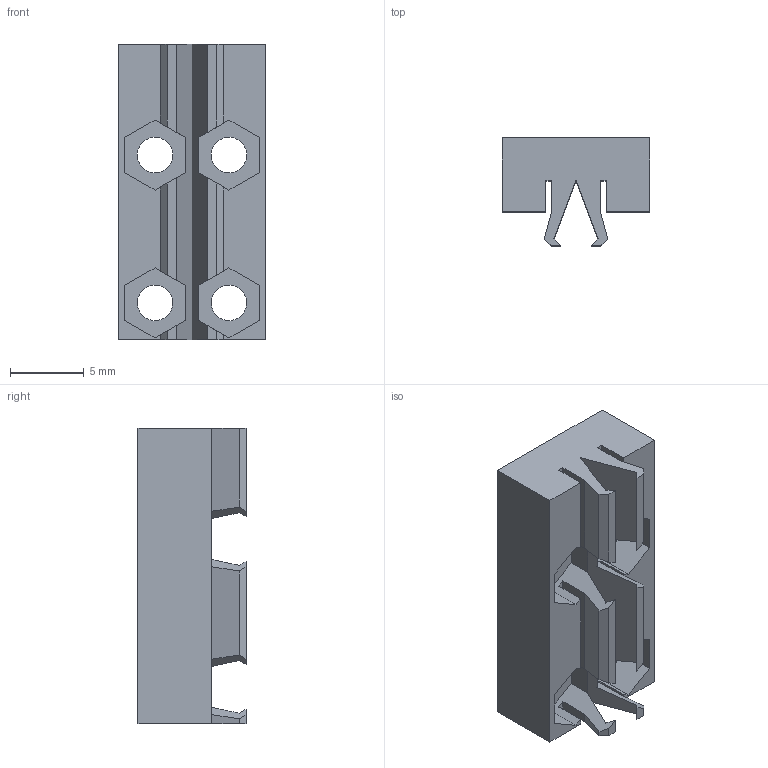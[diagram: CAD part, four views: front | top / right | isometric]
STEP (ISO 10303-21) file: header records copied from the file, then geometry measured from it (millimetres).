
FILE_DESCRIPTION(/* description */ (''),/* implementation_level */ '2;1');
FILE_NAME(/* name */ 'C:/Users/priba/Downloads/brick-spac2x5-10.step',/* time_stamp */ '2020-09-13T09:03:17+02:00',/* author */ (''),/* organization */ (''),/* preprocessor_version */ 'ST-DEVELOPER v18.1',/* originating_system */ 'Autodesk Translation Framework v9.3.0.1241',/* authorisation */ '');
FILE_SCHEMA (('AUTOMOTIVE_DESIGN { 1 0 10303 214 3 1 1 }'));
Length unit declared in the file: millimetre
Products named in the file (2): brick-spac2x5-10; NutHoleM2
Assembly tree (1 placements, depth 2):
  brick-spac2x5-10
    NutHoleM2
Bounding box: 10 x 7.31 x 20 mm (x, y, z)
Volume: 799.7 mm3; surface area: 1158.1 mm2
Topology: 1 solids, 1 shells, 84 faces, 246 edges, 164 vertices
Faces by surface type: plane 80, cylinder 4
Full cylindrical faces by diameter (mm): 2.4 x4
Entity records: 2807 total; most frequent: CARTESIAN_POINT 497, ORIENTED_EDGE 492, DIRECTION 428, EDGE_CURVE 246, LINE 238, VECTOR 238, VERTEX_POINT 164, AXIS2_PLACEMENT_3D 95
